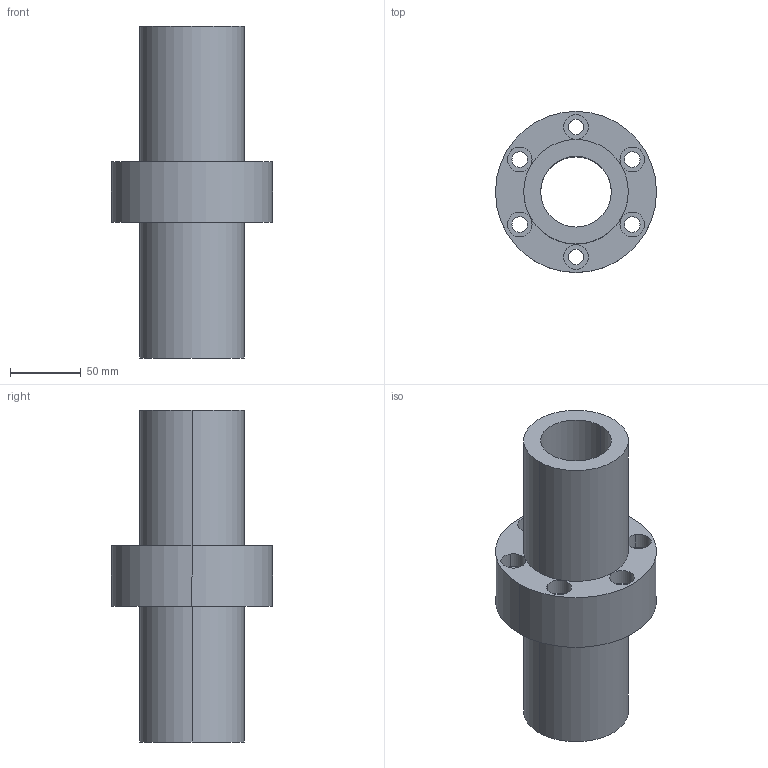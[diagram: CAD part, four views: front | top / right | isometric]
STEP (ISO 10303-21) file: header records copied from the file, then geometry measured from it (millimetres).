
FILE_DESCRIPTION((''),'2;1');
FILE_NAME('50-10T6','2008-04-07T',('yanyu'),(''),'PRO/ENGINEER BY PARAMETRIC TECHNOLOGY CORPORATION, 2005070','PRO/ENGINEER BY PARAMETRIC TECHNOLOGY CORPORATION, 2005070','');
FILE_SCHEMA(('CONFIG_CONTROL_DESIGN'));
Length unit declared in the file: millimetre
Products named in the file (1): 50-10T6
Bounding box: 114 x 114 x 235 mm (x, y, z)
Volume: 769121.2 mm3; surface area: 122559.8 mm2
Topology: 1 solids, 1 shells, 42 faces, 104 edges, 72 vertices
Faces by surface type: cylinder 32, plane 10
Entity records: 1370 total; most frequent: DIRECTION 260, CARTESIAN_POINT 218, ORIENTED_EDGE 208, AXIS2_PLACEMENT_3D 114, EDGE_CURVE 104, VERTEX_POINT 72, CIRCLE 72, EDGE_LOOP 64
